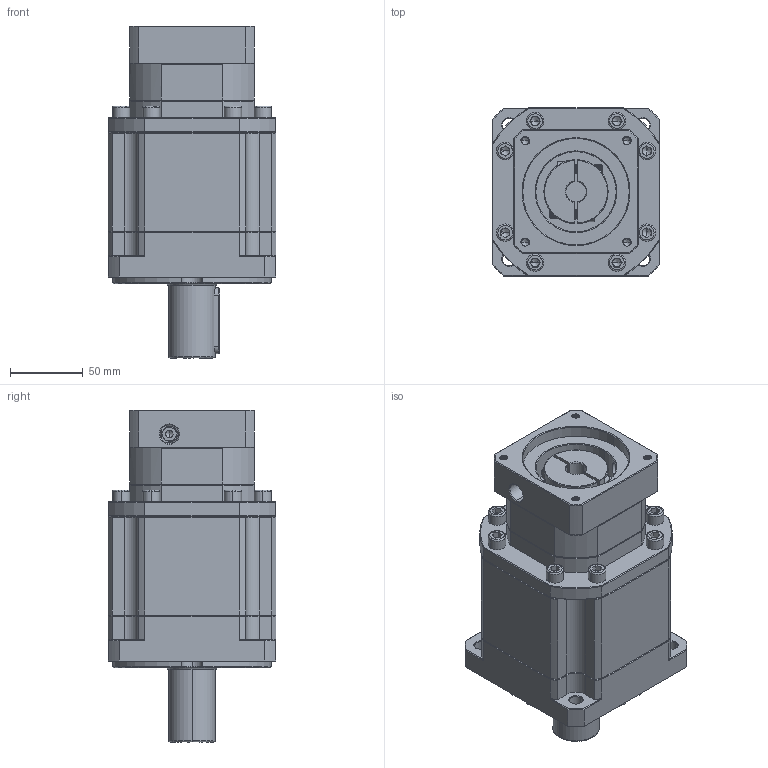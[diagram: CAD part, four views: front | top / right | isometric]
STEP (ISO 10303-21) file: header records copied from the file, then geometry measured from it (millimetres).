
FILE_DESCRIPTION (( 'STEP AP214' ), '1' );
FILE_NAME ('ZB115A-D32-L3-14-73-69.6X69.6-M6.step', '2023-03-03T09:56:18', ( '' ), ( 'Microsoft' ), 'SwSTEP 2.0', 'SolidWorks 2016', '' );
FILE_SCHEMA (( 'AUTOMOTIVE_DESIGN' ));
Length unit declared in the file: millimetre
Products named in the file (1): ZB115A-D32-L3-14-73-69.6X69.6-M6
Bounding box: 115 x 115 x 227.5 mm (x, y, z)
Volume: 1704962.7 mm3; surface area: 146076.3 mm2
Topology: 5 solids, 6 shells, 2135 faces, 5512 edges, 3474 vertices
Faces by surface type: plane 1010, cylinder 425, cone 356, bspline 329, torus 15
Entity records: 112672 total; most frequent: CARTESIAN_POINT 40117, ORIENTED_EDGE 10948, DIRECTION 8977, EDGE_CURVE 5474, VERTEX_POINT 3474, LINE 3417, VECTOR 3417, AXIS2_PLACEMENT_3D 2780
